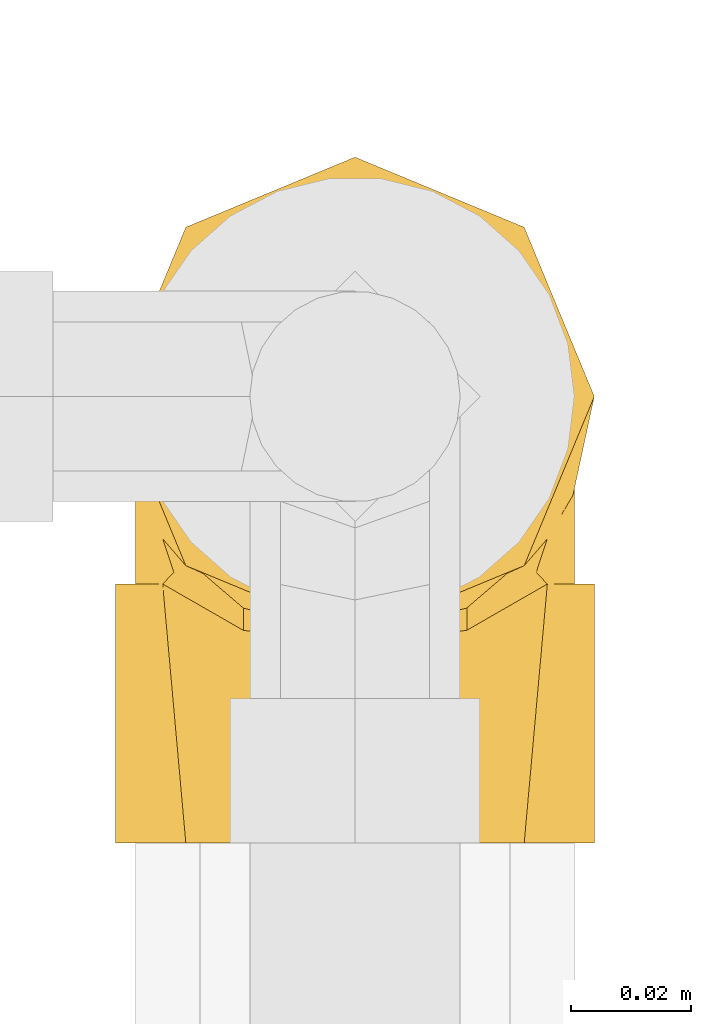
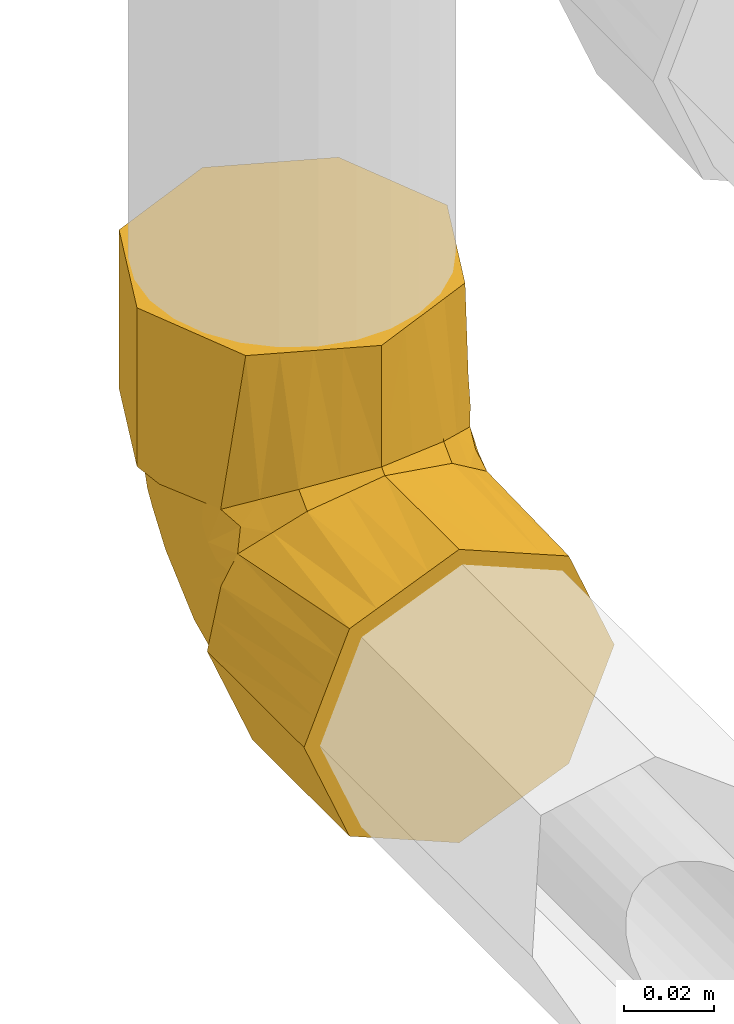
# One storey, part 280 of 652: 1 covering.
"""IFC2X3 building model written with IfcOpenShell, lengths in millimetres."""

from ifc_helpers import new_model, entity, si_unit, converted_unit, direction, frame, origin, place, context, subcontext, project, spatial, faceted_brep, material, type_object, element, save


model = new_model("IFC2X3")

# Units and contexts
model_context = context("Model", 3, precision=0.01, world=frame((0.0, 0.0, 308426.39999999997)), true_north=direction((6.123233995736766e-17, 1.0)))
plan_context = context("Plan", 3, precision=0.01, world=frame((0.0, 0.0, 308426.39999999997)), true_north=direction((6.123233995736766e-17, 1.0)))
body_context = subcontext(model_context, "Body", "Model", "MODEL_VIEW")
ifc_project = project(units=[si_unit("LENGTHUNIT", "METRE", prefix="MILLI"), si_unit("AREAUNIT", "SQUARE_METRE"), si_unit("VOLUMEUNIT", "CUBIC_METRE"), converted_unit("PLANEANGLEUNIT", "DEGREE", entity("IfcPlaneAngleMeasure", 0.017453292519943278), si_unit("PLANEANGLEUNIT", "RADIAN"), dimensions=[0, 0, 0, 0, 0, 0, 0])], contexts=[model_context, plan_context])

# Site, building, storey
site_placement = place(None, origin())
site = spatial("IfcSite", under=ifc_project, at=site_placement, Name="Default", CompositionType="ELEMENT")
building_placement = place(site_placement, origin())
building = spatial("IfcBuilding", under=site, at=building_placement, CompositionType="ELEMENT")
storey_placement = place(building_placement, frame((0.0, 0.0, 1730.6999999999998)))
storey = spatial("IfcBuildingStorey", under=building, at=storey_placement, Name="EG_Produktion_FFB", CompositionType="ELEMENT", Elevation=1730.6999999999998)

# Covering
ifc_material = material(Name="Dämmung - Armaflex-Schlauch")
covering_type = type_object("IfcCoveringType", Name="Rohrdämmung außen:Armaflex-Schlauch", PredefinedType="INSULATION")
covering_placement = place(storey_placement, frame((79380.69747546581, 84574.61066098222, 4958.604727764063)))
element("IfcCovering", 1, at=covering_placement, inside=storey, type_object=covering_type, material=ifc_material, Name="Rohrdämmung außen:Armaflex-Schlauch", ObjectType="Rohrdämmung außen:Armaflex-Schlauch", PredefinedType="INSULATION", context=body_context, shape_type="Brep", body=[
    faceted_brep([(6.09855493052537, 43.04999999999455, 55.37038782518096), (5.626502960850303, 43.04999999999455, 51.352970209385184), (4.895272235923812, 43.04999999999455, 45.12980118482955), (8.337309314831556, 43.04999999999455, 37.494194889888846), (11.779346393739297, 43.04999999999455, 29.858588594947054), (15.013196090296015, 43.04999999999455, 22.68481256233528), (18.247045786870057, 43.04999999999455, 15.511036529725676), (29.821159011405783, 43.04999999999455, 11.256907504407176), (41.395272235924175, 43.04999999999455, 7.002778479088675), (48.61370078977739, 43.04999999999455, 10.652022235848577), (55.8321293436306, 43.04999999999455, 14.301265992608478), (63.050557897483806, 43.04999999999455, 17.95050974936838), (70.26898645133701, 43.04999999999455, 21.59975350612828), (72.65925463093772, 43.04999999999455, 28.974657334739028), (75.27726343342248, 43.04999999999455, 37.05222925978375), (77.89527223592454, 43.04999999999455, 45.12980118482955), (77.16404151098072, 43.04999999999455, 51.352970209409), (76.69198954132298, 43.04999999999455, 55.37038782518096), (75.03870510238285, 43.04999999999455, 60.222069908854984), (73.38542066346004, 43.04999999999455, 65.073751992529), (76.84233005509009, 43.04999999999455, 57.433361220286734), (80.29923944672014, 43.04999999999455, 49.792970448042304), (81.19527223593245, 43.04999999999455, 41.39527223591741), (77.88147587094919, 43.04999999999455, 33.39506010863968), (75.36669718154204, 43.04999999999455, 27.323847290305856), (72.45240965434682, 43.04999999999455, 20.288134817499), (69.53812212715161, 43.04999999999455, 13.25242234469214), (62.50240965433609, 43.04999999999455, 10.338134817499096), (55.466697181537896, 43.04999999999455, 7.423847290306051), (48.4309847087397, 43.04999999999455, 4.509559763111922), (41.395272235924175, 43.04999999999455, 1.595272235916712), (33.39506004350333, 43.04999999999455, 4.909068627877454), (27.32384729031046, 43.04999999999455, 7.423847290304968), (20.28813481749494, 43.04999999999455, 10.338134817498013), (13.252422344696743, 43.04999999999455, 13.25242234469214), (10.338134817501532, 43.04999999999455, 20.288134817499), (7.423847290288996, 43.04999999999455, 27.323847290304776), (4.909068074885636, 43.04999999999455, 33.39506137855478), (1.5952722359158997, 43.04999999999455, 41.39527223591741), (3.364784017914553, 43.04999999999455, 49.59864940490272), (5.134295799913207, 43.04999999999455, 57.80202657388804), (9.405123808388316, 43.04999999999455, 65.073751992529), (7.751839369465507, 43.04999999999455, 60.222069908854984), (69.53812212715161, 0.0, 69.53812212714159), (62.50240965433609, 0.0, 72.45240965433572), (55.466697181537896, 0.0, 75.36669718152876), (49.39548459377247, 0.0, 77.88147577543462), (41.395272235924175, 0.0, 81.19527223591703), (33.39506150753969, 0.0, 77.88147645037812), (27.32384729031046, 0.0, 75.36669718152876), (20.28813481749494, 0.0, 72.45240965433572), (13.252422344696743, 0.0, 69.53812212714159), (10.338134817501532, 0.0, 62.50240965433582), (7.4238472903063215, 0.0, 55.466697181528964), (4.509559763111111, 0.0, 48.43098470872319), (1.5952722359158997, 0.0, 41.39527223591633), (4.509559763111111, 0.0, 34.35955976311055), (7.423847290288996, 0.0, 27.323847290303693), (10.338134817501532, 0.0, 20.288134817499), (13.252422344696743, 0.0, 13.25242234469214), (20.288134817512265, 0.0, 10.338134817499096), (27.32384729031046, 0.0, 7.423847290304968), (34.359559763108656, 0.0, 4.50955976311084), (41.395272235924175, 0.0, 1.595272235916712), (48.43098470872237, 0.0, 4.509559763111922), (55.466697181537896, 0.0, 7.423847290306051), (62.502409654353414, 0.0, 10.338134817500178), (69.53812212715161, 0.0, 13.25242234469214), (74.5676791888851, 0.0, 25.394847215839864), (77.8814757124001, 0.0, 33.39505972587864), (81.19527223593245, 0.0, 41.39527223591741), (78.28098470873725, 0.0, 48.43098470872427), (75.36669718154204, 0.0, 55.466697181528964), (72.4524096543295, 0.0, 62.50240965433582), (66.68337377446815, 39.20119599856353, 70.83137669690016), (41.395272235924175, 32.967959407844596, 81.19527223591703), (50.688299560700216, 34.16017570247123, 78.89213681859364), (59.981326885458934, 35.352391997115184, 76.58900140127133), (55.33481322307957, 34.756283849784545, 77.74056910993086), (16.10717069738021, 39.20119599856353, 70.83137669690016), (32.10224491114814, 34.16017570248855, 78.89213681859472), (22.809217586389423, 35.352391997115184, 76.58900140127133), (37.08137186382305, 33.52139610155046, 80.12613767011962), (1.5952722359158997, 74.25000000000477, 72.59527223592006), (4.9090685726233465, 82.25021205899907, 72.59527223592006), (7.423847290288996, 88.32142494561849, 72.59527223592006), (10.338134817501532, 95.35713741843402, 72.59527223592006), (13.252422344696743, 102.39284989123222, 72.59527223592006), (20.28813481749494, 105.30713741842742, 72.59527223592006), (27.32384729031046, 108.22142494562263, 72.59527223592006), (33.39506143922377, 110.73620418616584, 72.59527223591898), (41.395272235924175, 114.05000000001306, 72.59527223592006), (49.39548405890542, 110.73620376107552, 72.59527223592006), (55.466697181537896, 108.22142494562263, 72.59527223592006), (62.502409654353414, 105.30713741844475, 72.59527223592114), (69.53812212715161, 102.39284989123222, 72.59527223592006), (72.45240965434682, 95.35713741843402, 72.59527223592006), (75.36669718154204, 88.32142494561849, 72.59527223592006), (78.28098470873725, 81.28571247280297, 72.59527223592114), (81.19527223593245, 74.25000000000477, 72.59527223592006), (79.425746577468, 66.04659216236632, 72.59527223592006), (77.65622091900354, 57.84318432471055, 72.59527223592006), (73.38542066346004, 50.571520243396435, 72.59527223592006), (75.03870510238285, 55.423202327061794, 72.59527223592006), (76.69198954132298, 60.27488441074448, 72.59527223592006), (77.1640414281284, 64.29230132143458, 72.59527223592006), (77.52965683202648, 67.40388618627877, 72.59527223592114), (77.89527223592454, 70.51547105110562, 72.59527223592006), (74.55483320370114, 77.92227137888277, 72.59527223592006), (71.21439417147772, 85.32907170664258, 72.59527223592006), (67.8739551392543, 92.73587203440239, 72.59527223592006), (64.53351610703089, 100.14267236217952, 72.59527223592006), (58.748955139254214, 102.2676277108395, 72.59527223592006), (52.96439417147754, 104.39258305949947, 72.59527223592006), (41.395272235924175, 108.64249375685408, 72.59527223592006), (34.17467666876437, 104.99034516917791, 72.59527223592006), (26.954081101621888, 101.33819658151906, 72.59527223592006), (19.73348553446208, 97.68604799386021, 72.59527223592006), (12.512889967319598, 94.0338994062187, 72.59527223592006), (10.608485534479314, 88.15429231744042, 72.59527223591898), (8.704081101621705, 82.27468522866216, 72.59527223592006), (4.895272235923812, 70.51547105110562, 72.59527223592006), (5.26088763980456, 67.40388618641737, 72.59527223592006), (5.6265030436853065, 64.29230132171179, 72.59527223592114), (6.09855493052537, 60.27488441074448, 72.59527223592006), (7.751839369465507, 55.423202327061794, 72.59527223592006), (9.405123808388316, 50.571520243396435, 72.59527223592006), (5.948218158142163, 58.21189368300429, 72.59527223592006), (2.4913125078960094, 65.85226712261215, 72.59527223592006), (78.28098470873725, 81.2857124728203, 115.64527223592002), (75.36669718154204, 88.32142494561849, 115.64527223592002), (72.45240965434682, 95.35713741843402, 115.64527223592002), (69.53812212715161, 102.39284989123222, 115.64527223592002), (57.39569695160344, 107.42240707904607, 115.64527223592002), (49.39548459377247, 110.73620353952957, 115.64527223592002), (41.395272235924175, 114.05000000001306, 115.64527223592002), (34.35955976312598, 111.13571247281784, 115.64527223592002), (27.32384729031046, 108.22142494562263, 115.64527223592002), (20.28813481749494, 105.30713741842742, 115.64527223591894), (13.252422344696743, 102.39284989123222, 115.64527223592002), (10.338134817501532, 95.35713741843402, 115.64527223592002), (7.4238472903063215, 88.32142494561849, 115.64527223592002), (4.509559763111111, 81.28571247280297, 115.64527223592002), (1.5952722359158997, 74.25000000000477, 115.64527223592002), (4.509559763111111, 67.21428752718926, 115.64527223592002), (7.423847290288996, 60.17857505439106, 115.64527223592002), (10.338134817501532, 53.142862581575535, 115.64527223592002), (13.252422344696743, 46.10715010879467, 115.64527223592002), (20.28813481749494, 43.19286258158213, 115.64527223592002), (27.32384729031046, 40.2785750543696, 115.64527223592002), (33.395059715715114, 37.76379652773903, 115.64527223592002), (41.395272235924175, 34.45000000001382, 115.64527223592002), (49.395482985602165, 37.76379579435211, 115.64527223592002), (55.466697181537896, 40.2785750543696, 115.64527223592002), (62.502409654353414, 43.19286258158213, 115.64527223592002), (69.53812212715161, 46.10715010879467, 115.64527223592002), (72.45240965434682, 53.142862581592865, 115.64527223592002), (75.36669718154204, 60.17857505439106, 115.64527223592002), (77.8814757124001, 66.24978748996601, 115.64527223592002), (81.19527223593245, 74.25000000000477, 115.64527223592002), (41.395272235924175, 34.4499999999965, 82.67731282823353), (50.688299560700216, 36.75313541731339, 81.48509653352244), (59.981326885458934, 39.056270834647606, 80.29288023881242), (50.023072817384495, 36.58826909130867, 81.57043946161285), (66.68337377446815, 44.81389553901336, 76.44407623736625), (16.10717069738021, 44.81389553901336, 76.44407623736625), (32.10224491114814, 36.75313541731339, 81.48509653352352), (22.809217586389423, 39.056270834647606, 80.29288023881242), (32.76747165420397, 36.588269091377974, 81.57043946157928), (37.08137194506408, 35.51913454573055, 82.12387614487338), (70.65290767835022, 87.44001294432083, 57.40447907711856), (70.91336597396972, 59.348609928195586, 29.221391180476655), (74.40809412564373, 64.90306423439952, 40.05276523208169), (77.89527223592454, 54.54953211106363, 51.72274358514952), (77.07752798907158, 57.65826392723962, 44.46871669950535), (76.96826993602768, 69.6935440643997, 55.206079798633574), (68.49449972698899, 78.76668687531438, 40.81191866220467), (65.48820465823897, 63.73576362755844, 24.889275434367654), (41.395272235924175, 91.87217906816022, 37.58562470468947), (49.463783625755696, 97.28950443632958, 46.90627199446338), (49.826587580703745, 81.02225513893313, 27.557347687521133), (41.395272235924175, 55.255544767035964, 14.648490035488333), (50.82629237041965, 61.78394282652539, 14.916371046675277), (62.241411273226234, 82.06890696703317, 36.2810380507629), (77.89527223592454, 68.68470117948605, 70.20187735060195), (77.89527223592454, 66.85393130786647, 67.80848246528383), (77.89527223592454, 63.19239156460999, 63.021692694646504), (77.89527223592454, 62.53250158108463, 62.15900791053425), (77.89527223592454, 58.87096183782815, 57.37221813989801), (65.57850605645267, 92.43998191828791, 55.05614675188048), (59.2600406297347, 71.36422849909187, 24.58662511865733), (60.27659836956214, 57.49389771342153, 17.342470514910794), (58.24092024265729, 92.84978030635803, 45.9217407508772), (55.90055874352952, 84.77174820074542, 33.99708214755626), (41.395272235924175, 100.25733641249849, 55.09044847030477), (41.395272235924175, 100.82508217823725, 56.27567245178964), (41.395272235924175, 67.46108953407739, 22.294201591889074), (41.395272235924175, 73.39433514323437, 26.01086359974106), (41.395272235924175, 79.6666343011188, 29.939913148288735), (55.80011869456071, 100.6992905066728, 57.878489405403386), (73.86746114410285, 78.77811020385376, 53.17519816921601), (41.395272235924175, 58.22216757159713, 16.506821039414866), (77.89527223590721, 48.324477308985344, 48.153778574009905), (77.2391786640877, 48.69317164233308, 55.97900107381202), (76.0110802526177, 47.964423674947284, 61.26475606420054), (41.395272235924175, 33.737362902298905, 81.9079093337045), (76.11562270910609, 51.58600496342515, 64.05926779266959), (71.5340814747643, 44.98822020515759, 70.65705174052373), (76.01108003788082, 54.380515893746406, 67.68084924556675), (77.22455062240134, 59.638200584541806, 67.0446029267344), (5.551365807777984, 48.693171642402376, 55.979001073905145), (4.895272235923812, 48.32447730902, 48.153778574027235), (11.256463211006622, 44.9882201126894, 70.65705209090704), (6.674922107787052, 51.586004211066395, 64.05926854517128), (4.895272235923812, 58.8709618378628, 57.372218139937), (6.7794642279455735, 47.964423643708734, 61.26475607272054), (6.779464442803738, 54.38051588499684, 67.6808492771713), (5.565993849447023, 59.63820058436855, 67.04460292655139), (4.895272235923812, 66.85393130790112, 67.80848246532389), (4.895272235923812, 68.68470117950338, 70.20187735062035), (4.895272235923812, 63.1923915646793, 63.02169269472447), (4.895272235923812, 62.53250158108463, 62.15900791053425), (4.895272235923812, 54.54953211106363, 51.72274358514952), (7.904825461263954, 59.71456886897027, 37.596494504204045), (11.153131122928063, 58.230498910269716, 29.77900110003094), (6.9092149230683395, 76.57285852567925, 58.35673429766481), (31.851584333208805, 83.50662271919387, 30.25008837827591), (16.779704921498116, 80.0332007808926, 38.509823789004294), (9.122171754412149, 74.59033436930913, 47.230699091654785), (14.6078368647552, 87.07939433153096, 50.96010723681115), (5.8966784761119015, 66.22403301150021, 50.778566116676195), (5.88827797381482, 56.0691443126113, 42.44960378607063), (15.351617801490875, 67.93837358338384, 29.826692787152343), (22.54033754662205, 86.81855141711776, 39.6849859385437), (31.634152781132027, 98.52707757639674, 49.866350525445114), (22.719372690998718, 96.9921174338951, 55.10540828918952), (9.627121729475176, 83.5101283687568, 58.247507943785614), (24.594765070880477, 64.90812724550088, 19.804135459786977), (21.091652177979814, 74.90326070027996, 29.15087133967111), (16.75038261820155, 56.08355083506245, 21.43902557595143), (33.11251139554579, 68.7569483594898, 18.424421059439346)], [[[0, 1, 2, 3, 4, 5, 6, 7, 8, 9, 10, 11, 12, 13, 14, 15, 16, 17, 18, 19, 20, 21, 22, 23, 24, 25, 26, 27, 28, 29, 30, 31, 32, 33, 34, 35, 36, 37, 38, 39, 40, 41, 42]], [[43, 44, 45, 46, 47, 48, 49, 50, 51, 52, 53, 54, 55, 56, 57, 58, 59, 60, 61, 62, 63, 64, 65, 66, 67, 68, 69, 70, 71, 72, 73]], [[44, 43, 74]], [[75, 47, 46]], [[76, 75, 46]], [[45, 77, 78, 76]], [[44, 74, 77]], [[72, 20, 73]], [[71, 21, 72]], [[43, 19, 74]], [[77, 45, 44]], [[72, 21, 20]], [[71, 22, 21]], [[45, 76, 46]], [[71, 70, 22]], [[73, 20, 19]], [[19, 43, 73]], [[23, 22, 70, 69, 68, 67, 26, 25, 24]], [[26, 67, 66, 65, 64, 63, 30, 29, 28, 27]], [[38, 37, 36, 35, 34, 59, 58, 57, 56, 55]], [[30, 63, 62, 61, 60, 59, 34, 33, 32, 31]], [[53, 40, 39]], [[50, 79, 51]], [[39, 54, 53]], [[41, 52, 51]], [[40, 52, 41]], [[80, 49, 48]], [[49, 80, 81]], [[55, 54, 38]], [[48, 75, 82, 80]], [[38, 54, 39]], [[79, 50, 81]], [[52, 40, 53]], [[48, 47, 75]], [[50, 49, 81]], [[79, 41, 51]], [[83, 84, 85, 86, 87, 88, 89, 90, 91, 92, 93, 94, 95, 96, 97, 98, 99, 100, 101, 102, 103, 104, 105, 106, 107, 108, 109, 110, 111, 112, 113, 114, 115, 116, 117, 118, 119, 120, 121, 122, 123, 124, 125, 126, 127, 128]], [[129, 130, 131, 132, 133, 134, 135, 136, 137, 138, 139, 140, 141, 142, 143, 144, 145, 146, 147, 148, 149, 150, 151, 152, 153, 154, 155, 156, 157, 158, 159]], [[135, 134, 133, 132, 95, 94, 93, 92, 91]], [[95, 132, 131, 130, 129, 159, 99, 98, 97, 96]], [[159, 158, 157, 100]], [[101, 156, 102]], [[99, 159, 100]], [[101, 100, 157]], [[152, 151, 160]], [[102, 156, 155]], [[153, 161, 162]], [[161, 153, 152]], [[152, 160, 163, 161]], [[154, 164, 155]], [[164, 154, 162]], [[156, 101, 157]], [[154, 153, 162]], [[164, 102, 155]], [[148, 147, 165]], [[149, 166, 150]], [[166, 149, 167]], [[160, 151, 150]], [[148, 165, 167]], [[145, 127, 146]], [[144, 128, 145]], [[147, 126, 165]], [[167, 149, 148]], [[145, 128, 127]], [[144, 83, 128]], [[150, 166, 168, 169, 160]], [[144, 143, 83]], [[146, 127, 126]], [[126, 147, 146]], [[91, 90, 89, 88, 87, 139, 138, 137, 136, 135]], [[141, 140, 139, 87, 86, 85, 84, 83, 143, 142]], [[109, 170, 110]], [[13, 171, 172]], [[14, 13, 172]], [[173, 174, 175]], [[176, 171, 177]], [[15, 14, 174]], [[178, 179, 180]], [[9, 181, 182]], [[172, 175, 174]], [[13, 12, 171]], [[12, 11, 177]], [[176, 177, 183]], [[175, 107, 184, 185, 186, 187, 188, 173]], [[189, 170, 176]], [[176, 172, 171]], [[190, 191, 182]], [[11, 10, 191]], [[177, 11, 191]], [[170, 189, 110]], [[192, 183, 193]], [[179, 178, 194, 195]], [[182, 191, 10]], [[190, 182, 180]], [[177, 191, 190]], [[182, 10, 9]], [[182, 196, 180]], [[177, 190, 183]], [[177, 171, 12]], [[180, 196, 197, 198, 178]], [[113, 179, 195]], [[112, 111, 199, 113]], [[199, 111, 189]], [[195, 114, 113]], [[179, 192, 193]], [[200, 175, 172]], [[200, 108, 175]], [[172, 176, 200]], [[189, 111, 110]], [[200, 170, 109]], [[183, 189, 176]], [[108, 200, 109]], [[189, 192, 199]], [[108, 107, 175]], [[176, 170, 200]], [[193, 190, 180]], [[189, 183, 192]], [[190, 193, 183]], [[179, 193, 180]], [[181, 9, 8]], [[182, 181, 201, 196]], [[192, 179, 199]], [[179, 113, 199]], [[174, 173, 202, 15]], [[172, 174, 14]], [[173, 203, 202]], [[188, 204, 203]], [[17, 203, 18]], [[202, 17, 16, 15]], [[205, 76, 163]], [[74, 164, 162, 77]], [[163, 76, 78, 77, 162, 161]], [[206, 102, 207]], [[207, 164, 74]], [[106, 105, 104, 185, 184, 107]], [[206, 208, 102]], [[186, 185, 209, 188, 187]], [[205, 75, 76]], [[163, 160, 205]], [[206, 207, 19]], [[164, 207, 102]], [[19, 18, 204]], [[19, 207, 74]], [[202, 203, 17]], [[204, 206, 19]], [[203, 173, 188]], [[18, 203, 204]], [[102, 208, 103]], [[103, 209, 104]], [[208, 206, 188]], [[209, 103, 208]], [[209, 185, 104]], [[188, 209, 208]], [[204, 188, 206]], [[205, 160, 169]], [[210, 211, 0]], [[169, 168, 166, 167, 81, 80, 82]], [[41, 212, 213]], [[1, 0, 211, 2]], [[213, 214, 215]], [[205, 169, 82]], [[79, 165, 212]], [[126, 125, 216]], [[213, 212, 126]], [[205, 82, 75]], [[167, 165, 79, 81]], [[217, 124, 218]], [[210, 215, 214]], [[219, 218, 124, 123, 122, 121]], [[41, 79, 212]], [[212, 165, 126]], [[215, 41, 213]], [[125, 124, 217]], [[126, 216, 213]], [[125, 217, 216]], [[217, 218, 220, 221, 214]], [[215, 42, 41]], [[0, 42, 210]], [[211, 210, 222]], [[214, 213, 216]], [[210, 42, 215]], [[216, 217, 214]], [[210, 214, 222]], [[4, 223, 224]], [[121, 120, 225]], [[226, 178, 198, 197]], [[227, 228, 229]], [[230, 228, 223]], [[231, 222, 230]], [[224, 228, 232]], [[233, 234, 226]], [[3, 231, 223]], [[235, 234, 233]], [[236, 225, 120]], [[231, 2, 211, 222]], [[226, 237, 238]], [[4, 3, 223]], [[225, 221, 220, 218, 219, 121]], [[239, 224, 232]], [[6, 237, 7]], [[237, 6, 239]], [[240, 201, 7]], [[230, 225, 228]], [[226, 240, 237]], [[236, 228, 225]], [[229, 117, 235]], [[194, 234, 115]], [[226, 234, 178]], [[115, 114, 195, 194]], [[237, 239, 238]], [[240, 226, 197]], [[228, 224, 223]], [[224, 239, 5]], [[5, 239, 6]], [[5, 4, 224]], [[239, 232, 238]], [[7, 201, 181, 8]], [[7, 237, 240]], [[240, 197, 196, 201]], [[229, 118, 117]], [[194, 178, 234]], [[233, 238, 227]], [[235, 117, 116]], [[234, 235, 116]], [[229, 235, 233]], [[231, 3, 2]], [[230, 223, 231]], [[230, 222, 214, 221]], [[225, 230, 221]], [[119, 118, 236, 120]], [[236, 118, 229]], [[229, 228, 236]], [[234, 116, 115]], [[227, 238, 232]], [[226, 238, 233]], [[228, 227, 232]], [[233, 227, 229]]]),
])

save(model, "model.ifc")
